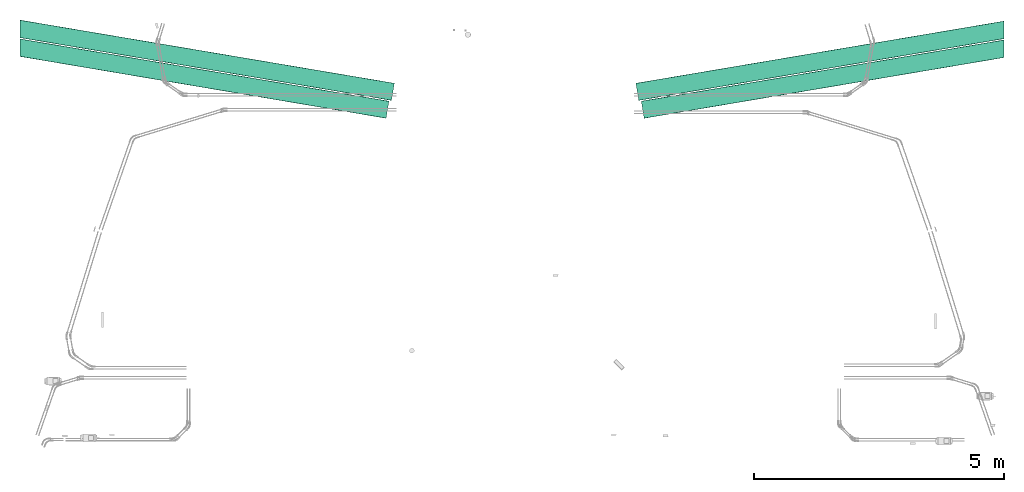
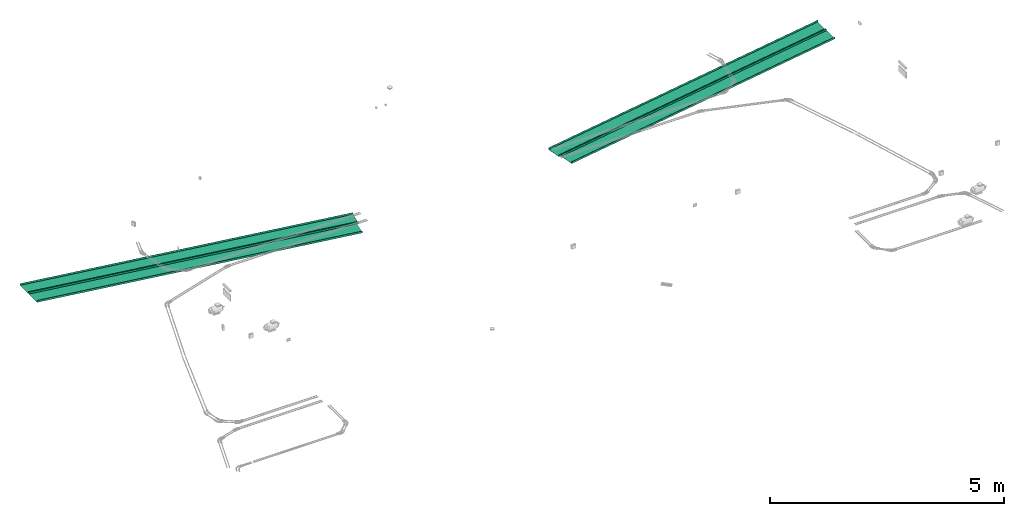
# One storey, part 20 of 22: 4 flow segments.
"""IFC2X3 building model written with IfcOpenShell, lengths in millimetres."""

import ifcopenshell
import ifcopenshell.guid

model = None  # the IFC model being written
_history = None  # IfcOwnerHistory: only IFC2X3 demands one
_inside = {}  # id of a spatial element -> (the spatial element, [elements in it])
_under = {}  # id of a project, library or spatial element -> (it, [spatial elements below it])
_declared = {}  # id of a project -> (the project, [libraries it declares])
_typed = {}  # id of a type object -> (the type object, [elements of that type])
_made_of = {}  # id of a material, layer set ... -> (it, [elements and type objects made of it])


def new_model(schema):
    """Start an empty IFC model of exactly this schema.

    Asked for "IFC4X3", IfcOpenShell would pick the latest addendum, in which some entities
    have other attributes; the version numbers below select the first issue.
    IFC2X3 requires an IfcOwnerHistory on every rooted entity: one is made here for all.
    """
    global model, _history
    if schema == "IFC4X3":
        model = ifcopenshell.file(schema_version=(4, 3, 0, 0))
    else:
        model = ifcopenshell.file(schema=schema)
    _inside.clear()
    _under.clear()
    _declared.clear()
    _typed.clear()
    _made_of.clear()
    _history = None
    if model.schema == "IFC2X3":
        org = make("IfcOrganization", Name="unknown")
        user = make(
            "IfcPersonAndOrganization",
            ThePerson=make("IfcPerson", FamilyName="unknown"),
            TheOrganization=org,
        )
        app = make(
            "IfcApplication",
            ApplicationDeveloper=org,
            Version="unknown",
            ApplicationFullName="unknown",
            ApplicationIdentifier="unknown",
        )
        _history = make(
            "IfcOwnerHistory",
            OwningUser=user,
            OwningApplication=app,
            ChangeAction="ADDED",
            CreationDate=0,
        )
    return model


def make(cls, **values):
    """One entity of the class cls with the attributes given. An attribute that is None is left unset."""
    return model.create_entity(
        cls, **{name: value for name, value in values.items() if value is not None}
    )


def entity(cls, *values):
    """Any entity or typed value of the class cls, its attributes in the order of the schema. None: left unset."""
    e = model.create_entity(cls)
    for i, value in enumerate(values):
        if value is not None:
            e[i] = value
    return e


def rooted(cls, **values):
    """An entity with a GlobalId (a new one), such as an element, a storey or a relation."""
    return make(cls, GlobalId=ifcopenshell.guid.new(), OwnerHistory=_history, **values)


def si_unit(unit_type, name, prefix=None):
    """IfcSIUnit, for example si_unit("LENGTHUNIT", "METRE", prefix="MILLI")."""
    return make("IfcSIUnit", UnitType=unit_type, Prefix=prefix, Name=name)


def converted_unit(unit_type, name, factor, base, dimensions=None, offset=None):
    """IfcConversionBasedUnit, such as the inch: factor (a typed value) times the base unit."""
    return make(
        "IfcConversionBasedUnit"
        if offset is None
        else "IfcConversionBasedUnitWithOffset",
        ConversionOffset=offset,
        Dimensions=None
        if dimensions is None
        else entity("IfcDimensionalExponents", *dimensions),
        UnitType=unit_type,
        Name=name,
        ConversionFactor=make(
            "IfcMeasureWithUnit", ValueComponent=factor, UnitComponent=base
        ),
    )


def derived_unit(unit_type, elements):
    """IfcDerivedUnit: a product of units, each with its exponent."""
    return make(
        "IfcDerivedUnit",
        Elements=[
            make("IfcDerivedUnitElement", Unit=unit, Exponent=power)
            for unit, power in elements
        ],
        UnitType=unit_type,
    )


def assignment(units):
    """IfcUnitAssignment: the units of a project."""
    return None if units is None else make("IfcUnitAssignment", Units=units)


def point(xyz):
    """IfcCartesianPoint."""
    return None if xyz is None else make("IfcCartesianPoint", Coordinates=xyz)


def direction(xyz):
    """IfcDirection."""
    return None if xyz is None else make("IfcDirection", DirectionRatios=xyz)


def frame(location, z_axis=None, x_axis=None):
    """IfcAxis2Placement3D, a coordinate frame: its origin and axes. An axis left out is left unset."""
    return make(
        "IfcAxis2Placement3D",
        Location=point(location),
        Axis=direction(z_axis),
        RefDirection=direction(x_axis),
    )


def place(relative_to, where):
    """IfcLocalPlacement: puts the frame where relative to a parent placement (None: the world)."""
    return make(
        "IfcLocalPlacement", PlacementRelTo=relative_to, RelativePlacement=where
    )


def context(
    kind, dimensions, precision=None, world=None, true_north=None, identifier=None
):
    """IfcGeometricRepresentationContext, for example the 3D "Model" context."""
    return make(
        "IfcGeometricRepresentationContext",
        ContextIdentifier=identifier,
        ContextType=kind,
        CoordinateSpaceDimension=dimensions,
        Precision=precision,
        WorldCoordinateSystem=world,
        TrueNorth=true_north,
    )


def subcontext(parent, identifier, kind, view, scale=None):
    """IfcGeometricRepresentationSubContext, for example "Body" below "Model"."""
    return make(
        "IfcGeometricRepresentationSubContext",
        ContextIdentifier=identifier,
        ContextType=kind,
        ParentContext=parent,
        TargetScale=scale,
        TargetView=view,
    )


def project(units=None, contexts=None):
    """IfcProject with its units and contexts."""
    return rooted(
        "IfcProject",
        Name="project",
        RepresentationContexts=contexts,
        UnitsInContext=assignment(units),
    )


def spatial(cls, under=None, at=None, **own):
    """A site, building, storey or space (cls), placed at a placement, below another one or the project."""
    s = rooted(cls, ObjectPlacement=at, **own)
    if under is not None:
        _under.setdefault(under.id(), (under, []))[1].append(s)
    return s


def faces_of(points, faces, orient=None, outer=None):
    """IfcFace entities. A face is a list of loops; a loop is a list of indices into points, from 0.

    orient and outer hold one flag for each loop. By default every Orientation is true, the
    first loop of a face is its IfcFaceOuterBound and the others are IfcFaceBound.
    """
    made = []
    for i, loops in enumerate(faces):
        bounds = []
        for j, loop in enumerate(loops):
            is_outer = j == 0 if outer is None else outer[i][j]
            bounds.append(
                make(
                    "IfcFaceOuterBound" if is_outer else "IfcFaceBound",
                    Bound=make("IfcPolyLoop", Polygon=[points[k] for k in loop]),
                    Orientation=True if orient is None else orient[i][j],
                )
            )
        made.append(make("IfcFace", Bounds=bounds))
    return made


def faceted_brep(points, faces, orient=None, outer=None, voids=None):
    """IfcFacetedBrep: a solid bounded by flat faces; with voids (closed shells), ...WithVoids."""
    shared = [point(p) for p in points]
    hull = make("IfcClosedShell", CfsFaces=faces_of(shared, faces, orient, outer))
    if voids is None:
        return make("IfcFacetedBrep", Outer=hull)
    return make(
        "IfcFacetedBrepWithVoids",
        Outer=hull,
        Voids=[
            make(cls, CfsFaces=faces_of(shared, fs, o, b)) for cls, fs, o, b in voids
        ],
    )


def shape(context_of_items, identifier, shape_type, items):
    """IfcShapeRepresentation: the items that make up one representation, for example the "Body"."""
    return make(
        "IfcShapeRepresentation",
        ContextOfItems=context_of_items,
        RepresentationIdentifier=identifier,
        RepresentationType=shape_type,
        Items=items,
    )


def made_of(thing, what):
    """Note that an element or type object is made of a material, layer set ...; save() writes the relation."""
    if what is not None:
        _made_of.setdefault(what.id(), (what, []))[1].append(thing)
    return thing


def type_object(cls, material=None, **own):
    """A type object (cls), such as IfcWallType, which elements share."""
    return made_of(rooted(cls, **own), material)


def element(
    cls,
    number,
    at=None,
    inside=None,
    cuts=None,
    type_object=None,
    material=None,
    context=None,
    identifier="Body",
    shape_type=None,
    held_by="IfcProductDefinitionShape",
    body=None,
    shapes=None,
    **own,
):
    """One element of the class cls, such as IfcWall. Its Tag is "e" and its number.

    at: its placement. inside: the storey or other place that contains it. cuts: it is an
    opening in that element (IfcRelVoidsElement). A single representation is given by context,
    identifier, shape_type and body (its items); several are given by shapes. held_by: the class
    of the entity that holds the representations. save() writes the other relations.
    """
    e = rooted(cls, Tag="e%d" % number, ObjectPlacement=at, **own)
    if body is not None:
        shapes = [shape(context, identifier, shape_type, body)]
    if shapes is not None:
        e.Representation = make(held_by, Representations=shapes)
    if inside is not None:
        _inside.setdefault(inside.id(), (inside, []))[1].append(e)
    if cuts is not None:
        rooted(
            "IfcRelVoidsElement", RelatingBuildingElement=cuts, RelatedOpeningElement=e
        )
    if type_object is not None:
        _typed.setdefault(type_object.id(), (type_object, []))[1].append(e)
    return made_of(e, material)


def aggregate(whole, parts):
    """IfcRelAggregates: a whole, such as a stair, and the parts it consists of."""
    return rooted("IfcRelAggregates", RelatingObject=whole, RelatedObjects=parts)


def save(model, path):
    """Write the relations noted so far, then the file.

    IfcRelAggregates (storeys below a building ...), IfcRelContainedInSpatialStructure (elements
    in a storey), IfcRelDefinesByType, IfcRelAssociatesMaterial and IfcRelDeclares: one each for
    every whole, place, type object, material and project.
    """
    for whole, parts in _under.values():
        aggregate(whole, parts)
    for where, things in _inside.values():
        rooted(
            "IfcRelContainedInSpatialStructure",
            RelatedElements=things,
            RelatingStructure=where,
        )
    for kind, things in _typed.values():
        rooted("IfcRelDefinesByType", RelatedObjects=things, RelatingType=kind)
    for what, things in _made_of.values():
        rooted("IfcRelAssociatesMaterial", RelatedObjects=things, RelatingMaterial=what)
    for by, libraries in _declared.values():
        rooted("IfcRelDeclares", RelatingContext=by, RelatedDefinitions=libraries)
    model.write(path)


model = new_model("IFC2X3")

# Units and contexts
model_context = context("Model", 3, precision=0.01, world=frame((0.0, 4.29681676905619e-09, 0.0)), true_north=direction((4.01073788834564e-13, 1.0)))
plan_context = context("Plan", 3, precision=0.01, world=frame((0.0, 4.29681676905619e-09, 0.0)), true_north=direction((4.01073788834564e-13, 1.0)))
body_context = subcontext(model_context, "Body", "Model", "MODEL_VIEW")
ifc_project = project(units=[converted_unit("PLANEANGLEUNIT", "DEGREE", entity("IfcPositiveLengthMeasure", 0.0174532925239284), si_unit("PLANEANGLEUNIT", "RADIAN"), dimensions=[0, 0, 0, 0, 0, 0, 0]), si_unit("AREAUNIT", "SQUARE_METRE"), si_unit("LENGTHUNIT", "METRE", prefix="MILLI"), si_unit("MASSUNIT", "GRAM", prefix="KILO"), si_unit("POWERUNIT", "WATT"), si_unit("PRESSUREUNIT", "PASCAL", prefix="KILO"), si_unit("FORCEUNIT", "NEWTON", prefix="KILO"), si_unit("ELECTRICVOLTAGEUNIT", "VOLT"), si_unit("ELECTRICCURRENTUNIT", "AMPERE"), si_unit("THERMODYNAMICTEMPERATUREUNIT", "DEGREE_CELSIUS"), si_unit("TIMEUNIT", "SECOND"), si_unit("VOLUMEUNIT", "CUBIC_METRE"), derived_unit("LINEARVELOCITYUNIT", [(si_unit("LENGTHUNIT", "METRE"), 1), (si_unit("TIMEUNIT", "SECOND"), -1)]), derived_unit("VOLUMETRICFLOWRATEUNIT", [(si_unit("VOLUMEUNIT", "CUBIC_METRE"), 1), (si_unit("TIMEUNIT", "SECOND"), -1)]), derived_unit("THERMALTRANSMITTANCEUNIT", [(si_unit("POWERUNIT", "WATT"), 1), (si_unit("THERMODYNAMICTEMPERATUREUNIT", "KELVIN"), -1), (si_unit("AREAUNIT", "SQUARE_METRE"), -1)]), derived_unit("SOUNDPRESSUREUNIT", [(si_unit("PRESSUREUNIT", "PASCAL"), 1)])], contexts=[model_context, plan_context])

# Site, building, storey
site_placement = place(None, frame((0.0, -4.29681676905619e-09, 0.0), z_axis=(0.0, 0.0, 1.0), x_axis=(1.0, 0.0, 0.0)))
site = spatial("IfcSite", under=ifc_project, at=site_placement, Name="ENGM", CompositionType="ELEMENT")
building_placement = place(site_placement, frame((0.0, 4.29681676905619e-09, 0.0), z_axis=(0.0, 0.0, 1.0), x_axis=(1.0, 0.0, 0.0)))
building = spatial("IfcBuilding", under=site, at=building_placement, Name="TI", CompositionType="ELEMENT")
storey_placement = place(building_placement, frame((0.0, 0.0, 210900.0), z_axis=(0.0, 0.0, 1.0), x_axis=(1.0, 0.0, 0.0)))
storey = spatial("IfcBuildingStorey", under=building, at=storey_placement, Name="Nivå F", CompositionType="ELEMENT", Elevation=210900.0)

# Flow segments
cable_carrier_segment_type = type_object("IfcCableCarrierSegmentType", Name="Gulvkanal", PredefinedType="CABLETRAYSEGMENT")
flow_segment_1_placement = place(storey_placement, frame((589449.1954, 576426.80104, -195.0), z_axis=(0.0, 0.0, 1.0), x_axis=(-0.986042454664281, 0.166494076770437, 0.0)))
element("IfcFlowSegment", 1, at=flow_segment_1_placement, inside=storey, type_object=cable_carrier_segment_type, Name="Gulvkanal", context=body_context, shape_type="Brep", body=[
    faceted_brep([(0.0, 175.0, 25.0), (0.0, 172.46, 25.0), (0.0, 172.46, -22.46), (0.0, 175.0, -25.0), (0.0, -175.0, -25.0), (0.0, -172.46, -22.46), (0.0, -175.0, 25.0), (0.0, -172.46, 25.0), (7481.02892939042, -175.0, -0.376624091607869), (7481.02892939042, -175.0, -25.0), (7481.02892939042, -175.0, 25.0), (7480.81771324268, -173.749096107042, 25.0), (7480.60004830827, -172.46, 25.0), (7480.60004830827, -172.46, 1.6261106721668), (7480.60004830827, -172.46, -22.46), (7422.36002356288, 172.46, -22.46), (7451.15936329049, 1.8991476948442, -22.46), (7422.36002356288, 172.46, 1.10141114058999), (7422.36002356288, 172.46, 25.0), (7422.14710031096, 173.721014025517, 25.0), (7421.93114248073, 175.0, 25.0), (7421.93114248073, 175.0, 0.176156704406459), (7421.93114248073, 175.0, -25.0), (7451.15465926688, 1.92700674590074, -25.0)], [[[0, 1, 2]], [[2, 3, 0]], [[3, 2, 4]], [[5, 4, 2]], [[4, 5, 6]], [[7, 6, 5]], [[8, 9, 4, 6]], [[10, 8, 6]], [[11, 10, 6, 7]], [[12, 11, 7]], [[13, 12, 7, 5]], [[14, 13, 5]], [[15, 16, 5, 2]], [[16, 14, 5]], [[17, 15, 2, 1]], [[18, 17, 1]], [[19, 18, 1, 0]], [[20, 19, 0]], [[21, 20, 0, 3]], [[22, 21, 3]], [[23, 22, 3, 4]], [[9, 23, 4]], [[10, 11, 12, 13, 14, 16, 15, 17, 18, 19, 20, 21, 22, 23, 9, 8]]], orient=[[False], [False], [False], [False], [False], [False], [False], [False], [False], [False], [False], [False], [False], [False], [False], [False], [False], [False], [False], [False], [False], [False], [False]]),
])
flow_segment_2_placement = place(storey_placement, frame((589557.56084, 576784.09591, -195.0), z_axis=(0.0, 0.0, 1.0), x_axis=(-0.986042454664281, 0.166494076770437, 0.0)))
element("IfcFlowSegment", 2, at=flow_segment_2_placement, inside=storey, type_object=cable_carrier_segment_type, Name="Gulvkanal", context=body_context, shape_type="Brep", body=[
    faceted_brep([(0.0, 175.0, 25.0), (0.0, 172.46, 25.0), (0.0, 172.46, -22.46), (0.0, 175.0, -25.0), (0.0, -175.0, -25.0), (0.0, -172.46, -22.46), (0.0, -175.0, 25.0), (0.0, -172.46, 25.0), (7590.92829476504, -175.0, -0.74941704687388), (7590.92829476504, -175.0, -25.0), (7590.92829476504, -175.0, 25.0), (7590.72027638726, -173.76803454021, 25.0), (7590.49941368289, -172.46, 25.0), (7590.49941368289, -172.46, 1.97996574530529), (7590.49941368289, -172.46, -22.46), (7532.2593889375, 172.46, -22.46), (7560.62620820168, 4.46070152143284, -22.46), (7532.2593889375, 172.46, 0.747556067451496), (7532.2593889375, 172.46, 25.0), (7532.04966345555, 173.702075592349, 25.0), (7531.83050785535, 175.0, 25.0), (7531.83050785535, 175.0, 0.54894965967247), (7531.83050785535, 175.0, -25.0), (7560.6151594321, 4.52613661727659, -25.0)], [[[0, 1, 2]], [[2, 3, 0]], [[3, 2, 4]], [[5, 4, 2]], [[4, 5, 6]], [[7, 6, 5]], [[8, 9, 4, 6]], [[10, 8, 6]], [[11, 10, 6, 7]], [[12, 11, 7]], [[13, 12, 7, 5]], [[14, 13, 5]], [[15, 16, 5, 2]], [[16, 14, 5]], [[17, 15, 2, 1]], [[18, 17, 1]], [[19, 18, 1, 0]], [[20, 19, 0]], [[21, 20, 0, 3]], [[22, 21, 3]], [[23, 22, 3, 4]], [[9, 23, 4]], [[10, 11, 12, 13, 14, 16, 15, 17, 18, 19, 20, 21, 22, 23, 9, 8]]], orient=[[False], [False], [False], [False], [False], [False], [False], [False], [False], [False], [False], [False], [False], [False], [False], [False], [False], [False], [False], [False], [False], [False], [False]]),
])
flow_segment_3_placement = place(storey_placement, frame((594550.8046, 576426.80104, -195.0), z_axis=(0.0, 0.0, 1.0), x_axis=(0.986042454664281, 0.166494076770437, 0.0)))
element("IfcFlowSegment", 3, at=flow_segment_3_placement, inside=storey, type_object=cable_carrier_segment_type, Name="Gulvkanal", context=body_context, shape_type="Brep", body=[
    faceted_brep([(0.0, 175.0, 25.0), (0.0, 172.46, 25.0), (0.0, 172.46, -22.46), (0.0, 175.0, -25.0), (0.0, -175.0, -25.0), (0.0, -172.46, -22.46), (0.0, -175.0, 25.0), (0.0, -172.46, 25.0), (7294.81426590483, -175.0, 0.212998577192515), (7294.81426590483, -175.0, -25.0), (7294.81426590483, -175.0, 25.0), (7295.24314698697, -172.46, 25.0), (7295.02688562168, -173.740783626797, 25.0), (7295.24314698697, -172.46, 1.06920501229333), (7295.24314698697, -172.46, -22.46), (7324.49379256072, 0.773660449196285, -22.46), (7353.48317173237, 172.46, -22.46), (7353.48317173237, 172.46, 1.28295457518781), (7353.48317173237, 172.46, 25.0), (7353.91205281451, 175.0, 25.0), (7353.69750145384, 173.729343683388, 25.0), (7353.91205281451, 175.0, -0.0121905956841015), (7353.91205281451, 175.0, -25.0), (7324.49570883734, 0.785009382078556, -25.0)], [[[0, 1, 2]], [[2, 3, 0]], [[3, 2, 4]], [[5, 4, 2]], [[4, 5, 6]], [[7, 6, 5]], [[8, 9, 4, 6]], [[10, 8, 6]], [[11, 12, 6, 7]], [[12, 10, 6]], [[13, 11, 7, 5]], [[14, 13, 5]], [[15, 14, 5, 2]], [[16, 15, 2]], [[17, 16, 2, 1]], [[18, 17, 1]], [[19, 20, 1, 0]], [[20, 18, 1]], [[21, 19, 0, 3]], [[22, 21, 3]], [[9, 23, 3, 4]], [[23, 22, 3]], [[10, 12, 11, 13, 14, 15, 16, 17, 18, 20, 19, 21, 22, 23, 9, 8]]], orient=[[False], [False], [False], [False], [False], [False], [False], [False], [False], [False], [False], [False], [False], [False], [False], [False], [False], [False], [False], [False], [False], [False], [False]]),
])
flow_segment_4_placement = place(storey_placement, frame((594442.43916, 576784.09591, -195.0), z_axis=(0.0, 0.0, 1.0), x_axis=(0.986042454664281, 0.166494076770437, 0.0)))
element("IfcFlowSegment", 4, at=flow_segment_4_placement, inside=storey, type_object=cable_carrier_segment_type, Name="Gulvkanal", context=body_context, shape_type="Brep", body=[
    faceted_brep([(0.0, 175.0, 25.0), (0.0, 172.46, 25.0), (0.0, 172.46, -22.46), (0.0, 175.0, -25.0), (0.0, -175.0, -25.0), (0.0, -172.46, -22.46), (0.0, -175.0, 25.0), (0.0, -172.46, 25.0), (7404.71363127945, -175.0, -0.160427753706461), (7404.71363127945, -175.0, -25.0), (7404.71363127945, -175.0, 25.0), (7405.14251236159, -172.46, 25.0), (7404.92945419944, -173.721813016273, 25.0), (7405.14251236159, -172.46, 1.42366128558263), (7405.14251236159, -172.46, -22.46), (7433.95990551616, -1.79222830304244, -22.46), (7463.38253710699, 172.46, -22.46), (7463.38253710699, 172.46, 0.928498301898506), (7463.38253710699, 172.46, 25.0), (7463.81141818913, 175.0, 25.0), (7463.6000700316, 173.748314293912, 25.0), (7463.81141818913, 175.0, 0.361235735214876), (7463.81141818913, 175.0, -25.0), (7433.9554663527, -1.81851874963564, -25.0)], [[[0, 1, 2]], [[2, 3, 0]], [[3, 2, 4]], [[5, 4, 2]], [[4, 5, 6]], [[7, 6, 5]], [[8, 9, 4, 6]], [[10, 8, 6]], [[11, 12, 6, 7]], [[12, 10, 6]], [[13, 11, 7, 5]], [[14, 13, 5]], [[15, 14, 5, 2]], [[16, 15, 2]], [[17, 16, 2, 1]], [[18, 17, 1]], [[19, 20, 1, 0]], [[20, 18, 1]], [[21, 19, 0, 3]], [[22, 21, 3]], [[9, 23, 3, 4]], [[23, 22, 3]], [[10, 12, 11, 13, 14, 15, 16, 17, 18, 20, 19, 21, 22, 23, 9, 8]]], orient=[[False], [False], [False], [False], [False], [False], [False], [False], [False], [False], [False], [False], [False], [False], [False], [False], [False], [False], [False], [False], [False], [False], [False]]),
])

save(model, "model.ifc")
